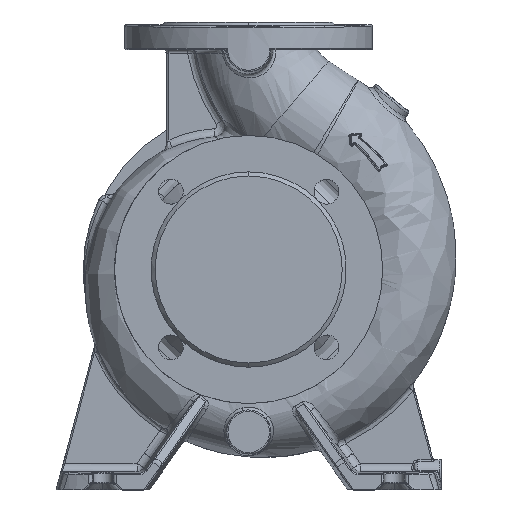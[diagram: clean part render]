
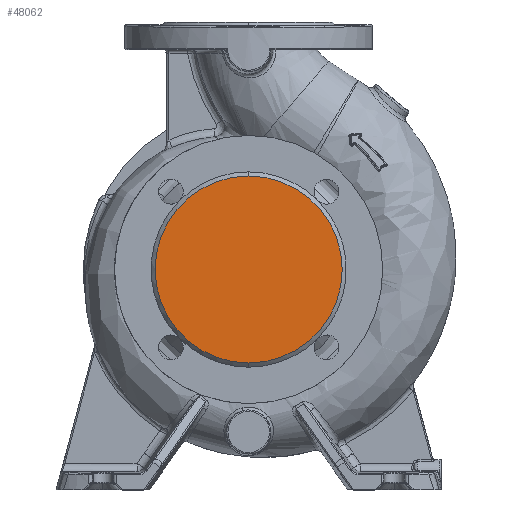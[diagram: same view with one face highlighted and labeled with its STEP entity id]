
A CAD part, top view. The second image highlights one B-rep face of the part: STEP entity #48062.
In plain terms, the highlighted planar face has unit normal (0, 0, 1).
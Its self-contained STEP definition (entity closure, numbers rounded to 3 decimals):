
#244 = CARTESIAN_POINT ( 'NONE',  ( 0., 0., 100. ) ) ;
#879 = VERTEX_POINT ( 'NONE', #31763 ) ;
#1927 = DIRECTION ( 'NONE',  ( 0., 1., 0. ) ) ;
#3342 = ORIENTED_EDGE ( 'NONE', *, *, #39805, .F. ) ;
#3620 = AXIS2_PLACEMENT_3D ( 'NONE', #17604, #22513, #4058 ) ;
#4058 = DIRECTION ( 'NONE',  ( 0., 1., 0. ) ) ;
#10744 = EDGE_LOOP ( 'NONE', ( #3342, #37800 ) ) ;
#13231 = DIRECTION ( 'NONE',  ( 0., 0., -1. ) ) ;
#14562 = AXIS2_PLACEMENT_3D ( 'NONE', #244, #13231, #40404 ) ;
#15209 = AXIS2_PLACEMENT_3D ( 'NONE', #32850, #23957, #1927 ) ;
#15643 = CARTESIAN_POINT ( 'NONE',  ( 0., -68., 100. ) ) ;
#17604 = CARTESIAN_POINT ( 'NONE',  ( 0., 0., 100. ) ) ;
#22513 = DIRECTION ( 'NONE',  ( 0., 0., -1. ) ) ;
#23112 = CIRCLE ( 'NONE', #3620, 68. ) ;
#23957 = DIRECTION ( 'NONE',  ( 0., 0., -1. ) ) ;
#31763 = CARTESIAN_POINT ( 'NONE',  ( 0., 68., 100. ) ) ;
#32850 = CARTESIAN_POINT ( 'NONE',  ( 0., 0., 100. ) ) ;
#32923 = VERTEX_POINT ( 'NONE', #15643 ) ;
#37800 = ORIENTED_EDGE ( 'NONE', *, *, #56417, .F. ) ;
#39805 = EDGE_CURVE ( 'NONE', #879, #32923, #44430, .T. ) ;
#40404 = DIRECTION ( 'NONE',  ( 0., 1., 0. ) ) ;
#44430 = CIRCLE ( 'NONE', #15209, 68. ) ;
#45164 = PLANE ( 'NONE',  #14562 ) ;
#47493 = FACE_OUTER_BOUND ( 'NONE', #10744, .T. ) ;
#48062 = ADVANCED_FACE ( 'NONE', ( #47493 ), #45164, .F. ) ;
#56417 = EDGE_CURVE ( 'NONE', #32923, #879, #23112, .T. ) ;
